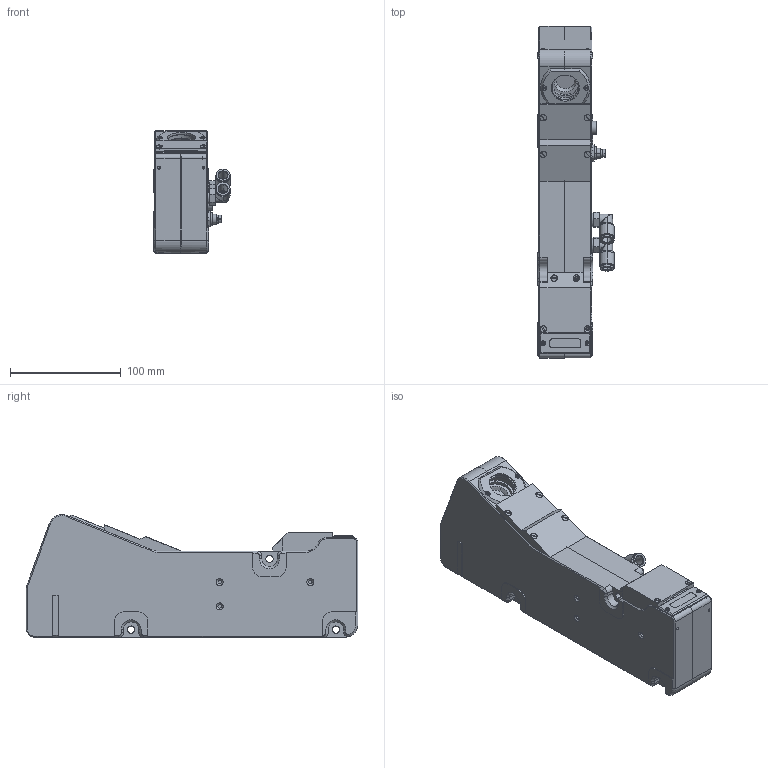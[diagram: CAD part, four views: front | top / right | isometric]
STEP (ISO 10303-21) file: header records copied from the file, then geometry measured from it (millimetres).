
FILE_DESCRIPTION (( 'STEP AP203' ), '1' );
FILE_NAME ('ÐÔ 625-450_650.STEP', '2014-04-24T12:42:21', ( 'Serg' ), ( '' ), 'SwSTEP 2.0', 'SolidWorks 2012', '' );
FILE_SCHEMA (( 'CONFIG_CONTROL_DESIGN' ));
Length unit declared in the file: millimetre
Products named in the file (22): 妈眚_󉱮6_鲨腠漯; Âèíò_Ì3x8 â ïîòàé; Øàéáà ïðóæèííàÿ_3; 妈眚_󉱭0_鲨腠漯; Âèíò_Ì2õ6; Ãàéêà Raz_09_0427_80_08; Raz_09_0427_80_08; Raz_09_0427_80_05; RF049.028_栺樏鋋; RF049.028_Ñîïëî2; RF049.028_Ñîïëî1; FESTO QSL_F_G1''8_8; Âèíò_Ì2õ4; RF 620.28._Ðàìêà îêíà1; RF 620.28._Ðàìêà îêíà2; Laszer; AZURE-1614MM; RF 620.028_扻豵鵨 鵽鎀; 俶 625-450_650; Raz_09_0412_80_04; RF 620.28._署赅 2; RF 620.028_Êðøê óãîë áåç îõë
Assembly tree (32 placements, depth 2):
  俶 625-450_650
    RF 620.028_扻豵鵨 鵽鎀
    AZURE-1614MM
    Laszer
    RF 620.28._Ðàìêà îêíà2
    RF 620.28._Ðàìêà îêíà1
    Âèíò_Ì2õ4  x4
    FESTO QSL_F_G1''8_8  x2
    RF049.028_Ñîïëî1
    RF049.028_Ñîïëî2
    RF049.028_栺樏鋋
    Raz_09_0427_80_05
    Raz_09_0427_80_08
    Ãàéêà Raz_09_0427_80_08  x2
    Âèíò_Ì2õ6  x2
    妈眚_󉱭0_鲨腠漯
    Øàéáà ïðóæèííàÿ_3  x2
    Âèíò_Ì3x8 â ïîòàé  x5
    妈眚_󉱮6_鲨腠漯
    RF 620.028_Êðøê óãîë áåç îõë
    RF 620.28._署赅 2
    Raz_09_0412_80_04
Bounding box: 69.3 x 300 x 110.98 mm (x, y, z)
Volume: 439162.6 mm3; surface area: 235104.5 mm2
Topology: 32 solids, 33 shells, 1819 faces, 4527 edges, 2869 vertices
Faces by surface type: plane 763, cylinder 745, cone 281, torus 26, bspline 4
Entity records: 51372 total; most frequent: CARTESIAN_POINT 9266, DIRECTION 8717, ORIENTED_EDGE 7942, EDGE_CURVE 3971, AXIS2_PLACEMENT_3D 3267, VERTEX_POINT 2542, VECTOR 2183, LINE 2183
